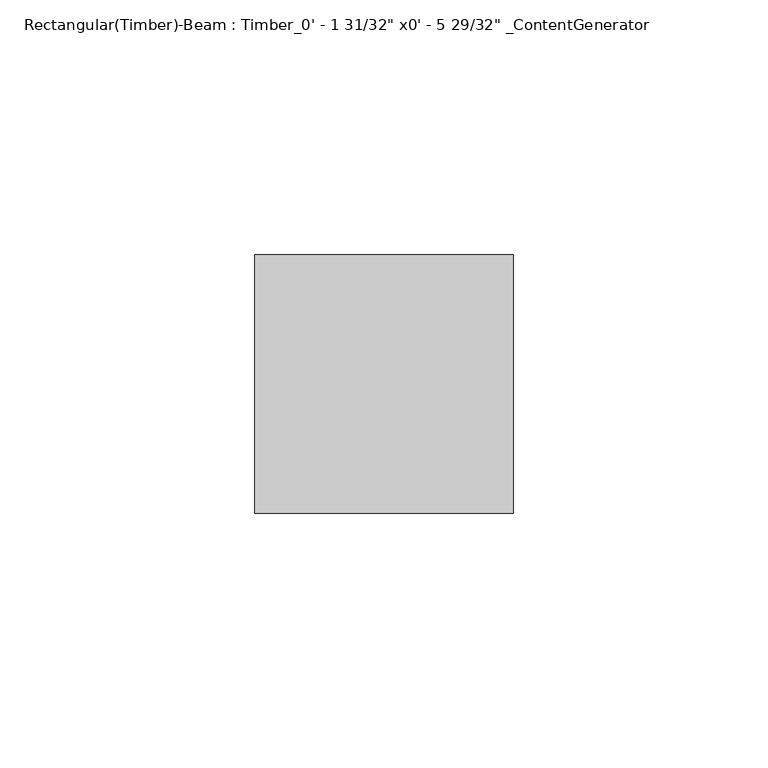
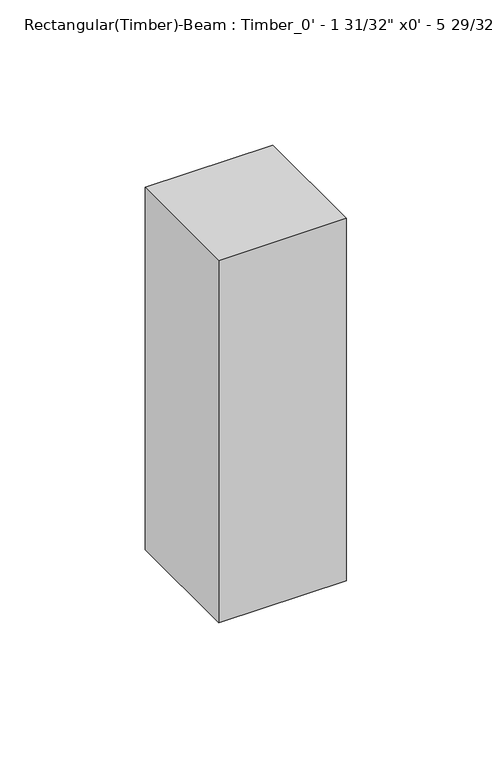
"""IFC4 building model written with IfcOpenShell, lengths in millimetres: beam geometry."""

from ifc_helpers import new_model, si_unit, frame, origin, place, context, project, spatial, polyline, outline, extrude, source, transform, mapped, element, save


def beam_2b1354d8(model_context):
    return source(origin(), model_context, "Body", "SweptSolid", [
        extrude(outline(polyline([(12.7, 25.4), (12.7, -25.4), (-38.0999994, -25.4), (-38.0999994, 25.4), (12.7, 25.4)])), frame((0.0, 0.0, -76.2), z_axis=(0.0, 0.0, 1.0), x_axis=(1.0, 0.0, 0.0)), (0.0, 0.0, 1.0), 152.4),
    ])


if __name__ == "__main__":
    model = new_model("IFC4")
    model_context = context("Model", 3, world=origin())
    ifc_project = project(units=[si_unit("LENGTHUNIT", "METRE", prefix="MILLI")], contexts=[model_context])
    site = spatial("IfcSite", under=ifc_project)
    building = spatial("IfcBuilding", under=site)
    placement = place(None, origin())
    beam_shape = beam_2b1354d8(model_context)
    element("IfcBeam", 1, ObjectType="Rectangular(Timber)-Beam : Timber_0' - 1 31/32\" x0' - 5 29/32\" _ContentGenerator", at=placement, inside=building, context=model_context, shape_type="MappedRepresentation", body=[
        mapped(beam_shape, transform((0.0, 0.0, 0.0), x_axis=(1.0, 0.0, 0.0), y_axis=(0.0, 1.0, 0.0), z_axis=(0.0, 0.0, 1.0))),
    ])
    save(model, "model.ifc")
